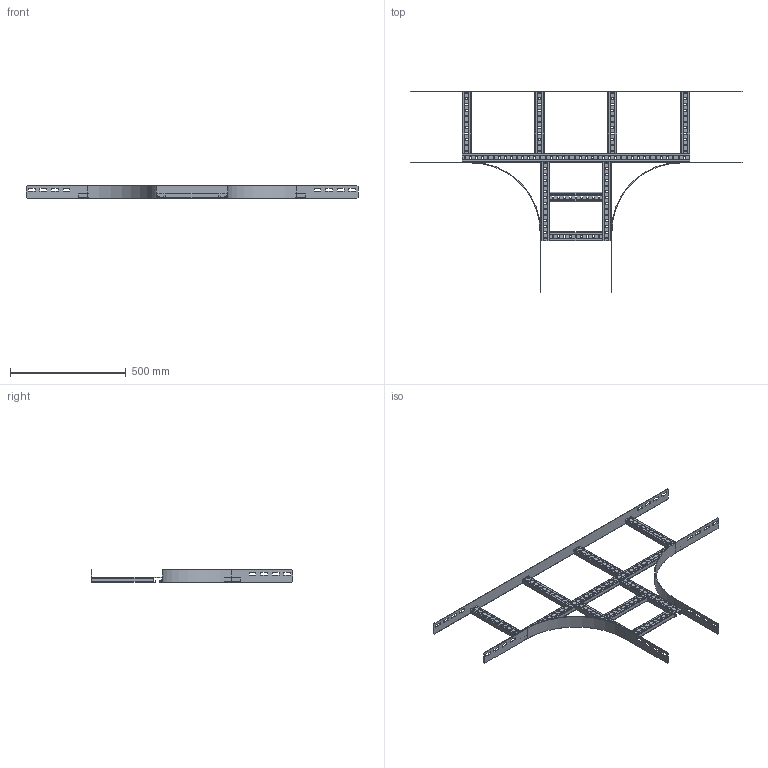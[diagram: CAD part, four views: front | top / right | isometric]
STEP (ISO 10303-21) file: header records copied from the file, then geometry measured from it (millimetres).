
FILE_DESCRIPTION(('Creo Elements/Direct Modeling STEP Export'),'2;1');
FILE_NAME('//pserver/office/EK/ME10-3D/3D-output/WPTP06-30-30-HDG.stp','2019-08-14T 9:47:44',(''),(''),'PTC Creo Elements/Direct Modeling STEP processor for AP214 (Solid Model)','PTC Creo Elements/Direct Modeling 19.0C 15-Aug-2015 (C) Parametric Technology GmbH','');
FILE_SCHEMA(('AUTOMOTIVE_DESIGN { 1 0 10303 214 1 1 1 1 }'));
Length unit declared in the file: millimetre
Products named in the file (7): WPKSP1_300-30; WPHBI_06-300.1.1; WPTPS30.1.1; WPKSP2_300; WPTPS_60-300-300; WPKS30.1; WPTP06-30-30-HDG
Assembly tree (12 placements, depth 2):
  WPTP06-30-30-HDG
    WPTPS30.1.1  x4
    WPKS30.1  x2
    WPTPS_60-300-300
    WPKSP2_300  x2
    WPHBI_06-300.1.1  x2
    WPKSP1_300-30
Bounding box: 1435 x 873 x 55 mm (x, y, z)
Volume: 1009711.4 mm3; surface area: 1034177.2 mm2
Topology: 12 solids, 12 shells, 1022 faces, 2994 edges, 1996 vertices
Faces by surface type: plane 588, cylinder 434
Entity records: 18704 total; most frequent: CARTESIAN_POINT 3210, ORIENTED_EDGE 3204, DIRECTION 3140, EDGE_CURVE 1602, VECTOR 1144, LINE 1144, VERTEX_POINT 1068, AXIS2_PLACEMENT_3D 998
